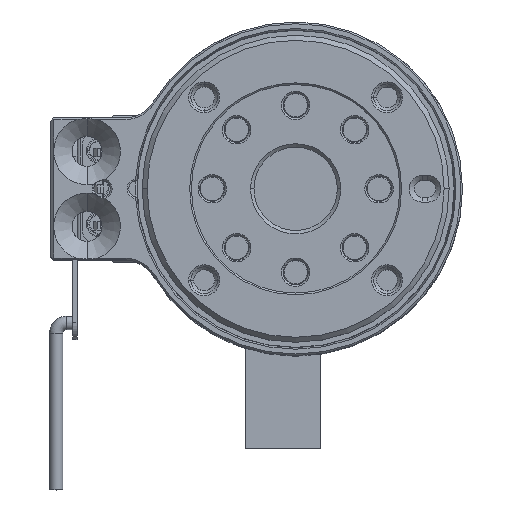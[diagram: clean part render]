
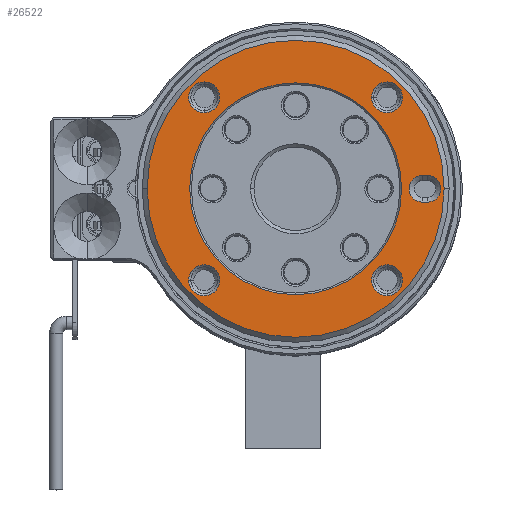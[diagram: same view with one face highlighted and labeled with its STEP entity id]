
A CAD part, top view. The second image highlights one B-rep face of the part: STEP entity #26522.
In plain terms, the highlighted planar face has unit normal (0, 0, 1) as drawn and (-1, 0, 0) by its records, which use the part's own axes.
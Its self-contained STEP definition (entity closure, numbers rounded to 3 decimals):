
#23492=CARTESIAN_POINT('',(-1.,0.,0.));
#23493=DIRECTION('',(1.,0.,0.));
#23494=DIRECTION('',(0.,0.,-1.));
#23495=AXIS2_PLACEMENT_3D('',#23492,#23493,#23494);
#23497=CARTESIAN_POINT('',(-1.,0.,0.));
#23498=DIRECTION('',(1.,0.,0.));
#23499=DIRECTION('',(0.,0.,1.));
#23500=AXIS2_PLACEMENT_3D('',#23497,#23498,#23499);
#23502=CARTESIAN_POINT('',(-1.,0.,0.));
#23503=DIRECTION('',(-1.,0.,0.));
#23504=DIRECTION('',(0.,0.,-1.));
#23505=AXIS2_PLACEMENT_3D('',#23502,#23503,#23504);
#23507=CARTESIAN_POINT('',(-1.,0.,0.));
#23508=DIRECTION('',(-1.,0.,0.));
#23509=DIRECTION('',(0.,0.,1.));
#23510=AXIS2_PLACEMENT_3D('',#23507,#23508,#23509);
#23512=CARTESIAN_POINT('',(-1.,-5.48,-5.48));
#23513=DIRECTION('',(-1.,0.,0.));
#23514=DIRECTION('',(0.,0.,-1.));
#23515=AXIS2_PLACEMENT_3D('',#23512,#23513,#23514);
#23517=CARTESIAN_POINT('',(-1.,-5.48,-5.48));
#23518=DIRECTION('',(-1.,0.,0.));
#23519=DIRECTION('',(0.,0.,1.));
#23520=AXIS2_PLACEMENT_3D('',#23517,#23518,#23519);
#23522=CARTESIAN_POINT('',(-1.,5.48,-5.48));
#23523=DIRECTION('',(-1.,0.,0.));
#23524=DIRECTION('',(0.,-1.,0.));
#23525=AXIS2_PLACEMENT_3D('',#23522,#23523,#23524);
#23527=CARTESIAN_POINT('',(-1.,5.48,-5.48));
#23528=DIRECTION('',(-1.,0.,0.));
#23529=DIRECTION('',(0.,0.,1.));
#23530=AXIS2_PLACEMENT_3D('',#23527,#23528,#23529);
#23532=CARTESIAN_POINT('',(-1.,5.48,-5.48));
#23533=DIRECTION('',(-1.,0.,0.));
#23534=DIRECTION('',(0.,1.,0.));
#23535=AXIS2_PLACEMENT_3D('',#23532,#23533,#23534);
#23537=CARTESIAN_POINT('',(-1.,5.48,-5.48));
#23538=DIRECTION('',(-1.,0.,0.));
#23539=DIRECTION('',(0.,0.,-1.));
#23540=AXIS2_PLACEMENT_3D('',#23537,#23538,#23539);
#23542=CARTESIAN_POINT('',(-1.,5.48,5.48));
#23543=DIRECTION('',(-1.,0.,0.));
#23544=DIRECTION('',(0.,0.,-1.));
#23545=AXIS2_PLACEMENT_3D('',#23542,#23543,#23544);
#23547=CARTESIAN_POINT('',(-1.,5.48,5.48));
#23548=DIRECTION('',(-1.,0.,0.));
#23549=DIRECTION('',(0.,0.,1.));
#23550=AXIS2_PLACEMENT_3D('',#23547,#23548,#23549);
#23552=CARTESIAN_POINT('',(-1.,-5.48,5.48));
#23553=DIRECTION('',(-1.,0.,0.));
#23554=DIRECTION('',(0.,-1.,0.));
#23555=AXIS2_PLACEMENT_3D('',#23552,#23553,#23554);
#23557=CARTESIAN_POINT('',(-1.,-5.48,5.48));
#23558=DIRECTION('',(-1.,0.,0.));
#23559=DIRECTION('',(0.,0.,1.));
#23560=AXIS2_PLACEMENT_3D('',#23557,#23558,#23559);
#23562=CARTESIAN_POINT('',(-1.,-5.48,5.48));
#23563=DIRECTION('',(-1.,0.,0.));
#23564=DIRECTION('',(0.,1.,0.));
#23565=AXIS2_PLACEMENT_3D('',#23562,#23563,#23564);
#23567=CARTESIAN_POINT('',(-1.,-5.48,5.48));
#23568=DIRECTION('',(-1.,0.,0.));
#23569=DIRECTION('',(0.,0.,-1.));
#23570=AXIS2_PLACEMENT_3D('',#23567,#23568,#23569);
#23572=CARTESIAN_POINT('',(-1.,0.,7.9));
#23573=DIRECTION('',(-1.,0.,0.));
#23574=DIRECTION('',(0.,-1.,0.));
#23575=AXIS2_PLACEMENT_3D('',#23572,#23573,#23574);
#23577=CARTESIAN_POINT('',(-1.,0.,7.9));
#23578=DIRECTION('',(-1.,0.,0.));
#23579=DIRECTION('',(0.,0.,1.));
#23580=AXIS2_PLACEMENT_3D('',#23577,#23578,#23579);
#23582=DIRECTION('',(0.,0.,-1.));
#23583=VECTOR('',#23582,0.3);
#23584=CARTESIAN_POINT('',(-1.,0.8,
7.9));
#23585=LINE('',#23584,#23583);
#23586=CARTESIAN_POINT('',(-1.,0.,7.6));
#23587=DIRECTION('',(-1.,0.,0.));
#23588=DIRECTION('',(0.,1.,0.));
#23589=AXIS2_PLACEMENT_3D('',#23586,#23587,#23588);
#23591=CARTESIAN_POINT('',(-1.,0.,7.6));
#23592=DIRECTION('',(-1.,0.,0.));
#23593=DIRECTION('',(0.,0.,-1.));
#23594=AXIS2_PLACEMENT_3D('',#23591,#23592,#23593);
#23596=DIRECTION('',(0.,0.,1.));
#23597=VECTOR('',#23596,0.3);
#23598=CARTESIAN_POINT('',(-1.,-0.8,
7.6));
#23599=LINE('',#23598,#23597);
#25419=CARTESIAN_POINT('',(-1.,0.,6.35));
#25420=CARTESIAN_POINT('',(-1.,0.,-6.35));
#25421=VERTEX_POINT('',#25419);
#25422=VERTEX_POINT('',#25420);
#25423=CARTESIAN_POINT('',(-1.,0.,-8.9));
#25424=CARTESIAN_POINT('',(-1.,0.,8.9));
#25425=VERTEX_POINT('',#25423);
#25426=VERTEX_POINT('',#25424);
#25427=CARTESIAN_POINT('',(-1.,-5.48,-6.405));
#25428=CARTESIAN_POINT('',(-1.,-5.48,-4.555));
#25429=VERTEX_POINT('',#25427);
#25430=VERTEX_POINT('',#25428);
#25431=CARTESIAN_POINT('',(-1.,4.555,-5.48));
#25432=CARTESIAN_POINT('',(-1.,5.48,-4.555));
#25433=VERTEX_POINT('',#25431);
#25434=VERTEX_POINT('',#25432);
#25435=CARTESIAN_POINT('',(-1.,6.405,-5.48));
#25436=VERTEX_POINT('',#25435);
#25437=CARTESIAN_POINT('',(-1.,5.48,-6.405));
#25438=VERTEX_POINT('',#25437);
#25439=CARTESIAN_POINT('',(-1.,5.48,4.555));
#25440=CARTESIAN_POINT('',(-1.,5.48,6.405));
#25441=VERTEX_POINT('',#25439);
#25442=VERTEX_POINT('',#25440);
#25443=CARTESIAN_POINT('',(-1.,-6.405,5.48));
#25444=CARTESIAN_POINT('',(-1.,-5.48,6.405));
#25445=VERTEX_POINT('',#25443);
#25446=VERTEX_POINT('',#25444);
#25447=CARTESIAN_POINT('',(-1.,-4.555,5.48));
#25448=VERTEX_POINT('',#25447);
#25449=CARTESIAN_POINT('',(-1.,-5.48,4.555));
#25450=VERTEX_POINT('',#25449);
#25451=CARTESIAN_POINT('',(-1.,-0.8,7.9));
#25452=CARTESIAN_POINT('',(-1.,0.,8.7));
#25453=VERTEX_POINT('',#25451);
#25454=VERTEX_POINT('',#25452);
#25455=CARTESIAN_POINT('',(-1.,0.8,7.9));
#25456=VERTEX_POINT('',#25455);
#25457=CARTESIAN_POINT('',(-1.,0.8,
7.6));
#25458=VERTEX_POINT('',#25457);
#25459=CARTESIAN_POINT('',(-1.,0.,6.8));
#25460=VERTEX_POINT('',#25459);
#25461=CARTESIAN_POINT('',(-1.,-0.8,7.6));
#25462=VERTEX_POINT('',#25461);
#26460=CARTESIAN_POINT('',(-1.,0.,0.));
#26461=DIRECTION('',(1.,0.,0.));
#26462=DIRECTION('',(0.,0.,1.));
#26463=AXIS2_PLACEMENT_3D('',#26460,#26461,#26462);
#26464=PLANE('',#26463);
#26466=ORIENTED_EDGE('',*,*,#26465,.T.);
#26468=ORIENTED_EDGE('',*,*,#26467,.T.);
#26469=EDGE_LOOP('',(#26466,#26468));
#26470=FACE_OUTER_BOUND('',#26469,.F.);
#26472=ORIENTED_EDGE('',*,*,#26471,.T.);
#26473=ORIENTED_EDGE('',*,*,#26450,.T.);
#26474=EDGE_LOOP('',(#26472,#26473));
#26475=FACE_BOUND('',#26474,.F.);
#26477=ORIENTED_EDGE('',*,*,#26476,.T.);
#26479=ORIENTED_EDGE('',*,*,#26478,.T.);
#26480=EDGE_LOOP('',(#26477,#26479));
#26481=FACE_BOUND('',#26480,.F.);
#26483=ORIENTED_EDGE('',*,*,#26482,.T.);
#26485=ORIENTED_EDGE('',*,*,#26484,.T.);
#26487=ORIENTED_EDGE('',*,*,#26486,.T.);
#26489=ORIENTED_EDGE('',*,*,#26488,.T.);
#26490=EDGE_LOOP('',(#26483,#26485,#26487,#26489));
#26491=FACE_BOUND('',#26490,.F.);
#26493=ORIENTED_EDGE('',*,*,#26492,.T.);
#26495=ORIENTED_EDGE('',*,*,#26494,.T.);
#26496=EDGE_LOOP('',(#26493,#26495));
#26497=FACE_BOUND('',#26496,.F.);
#26499=ORIENTED_EDGE('',*,*,#26498,.T.);
#26501=ORIENTED_EDGE('',*,*,#26500,.T.);
#26503=ORIENTED_EDGE('',*,*,#26502,.T.);
#26505=ORIENTED_EDGE('',*,*,#26504,.T.);
#26506=EDGE_LOOP('',(#26499,#26501,#26503,#26505));
#26507=FACE_BOUND('',#26506,.F.);
#26509=ORIENTED_EDGE('',*,*,#26508,.T.);
#26511=ORIENTED_EDGE('',*,*,#26510,.T.);
#26513=ORIENTED_EDGE('',*,*,#26512,.T.);
#26515=ORIENTED_EDGE('',*,*,#26514,.T.);
#26517=ORIENTED_EDGE('',*,*,#26516,.T.);
#26519=ORIENTED_EDGE('',*,*,#26518,.T.);
#26520=EDGE_LOOP('',(#26509,#26511,#26513,#26515,#26517,#26519));
#26521=FACE_BOUND('',#26520,.F.);
#26522=ADVANCED_FACE('',(#26470,#26475,#26481,#26491,#26497,#26507,#26521),
#26464,.F.);
#23496=CIRCLE('',#23495,8.9);
#23501=CIRCLE('',#23500,8.9);
#23506=CIRCLE('',#23505,6.35);
#23511=CIRCLE('',#23510,6.35);
#23516=CIRCLE('',#23515,0.925);
#23521=CIRCLE('',#23520,0.925);
#23526=CIRCLE('',#23525,0.925);
#23531=CIRCLE('',#23530,0.925);
#23536=CIRCLE('',#23535,0.925);
#23541=CIRCLE('',#23540,0.925);
#23546=CIRCLE('',#23545,0.925);
#23551=CIRCLE('',#23550,0.925);
#23556=CIRCLE('',#23555,0.925);
#23561=CIRCLE('',#23560,0.925);
#23566=CIRCLE('',#23565,0.925);
#23571=CIRCLE('',#23570,0.925);
#23576=CIRCLE('',#23575,0.8);
#23581=CIRCLE('',#23580,0.8);
#23590=CIRCLE('',#23589,0.8);
#23595=CIRCLE('',#23594,0.8);
#26450=EDGE_CURVE('',#25421,#25422,#23511,.T.);
#26465=EDGE_CURVE('',#25425,#25426,#23496,.T.);
#26467=EDGE_CURVE('',#25426,#25425,#23501,.T.);
#26471=EDGE_CURVE('',#25422,#25421,#23506,.T.);
#26476=EDGE_CURVE('',#25429,#25430,#23516,.T.);
#26478=EDGE_CURVE('',#25430,#25429,#23521,.T.);
#26482=EDGE_CURVE('',#25433,#25434,#23526,.T.);
#26484=EDGE_CURVE('',#25434,#25436,#23531,.T.);
#26486=EDGE_CURVE('',#25436,#25438,#23536,.T.);
#26488=EDGE_CURVE('',#25438,#25433,#23541,.T.);
#26492=EDGE_CURVE('',#25441,#25442,#23546,.T.);
#26494=EDGE_CURVE('',#25442,#25441,#23551,.T.);
#26498=EDGE_CURVE('',#25445,#25446,#23556,.T.);
#26500=EDGE_CURVE('',#25446,#25448,#23561,.T.);
#26502=EDGE_CURVE('',#25448,#25450,#23566,.T.);
#26504=EDGE_CURVE('',#25450,#25445,#23571,.T.);
#26508=EDGE_CURVE('',#25453,#25454,#23576,.T.);
#26510=EDGE_CURVE('',#25454,#25456,#23581,.T.);
#26512=EDGE_CURVE('',#25456,#25458,#23585,.T.);
#26514=EDGE_CURVE('',#25458,#25460,#23590,.T.);
#26516=EDGE_CURVE('',#25460,#25462,#23595,.T.);
#26518=EDGE_CURVE('',#25462,#25453,#23599,.T.);
